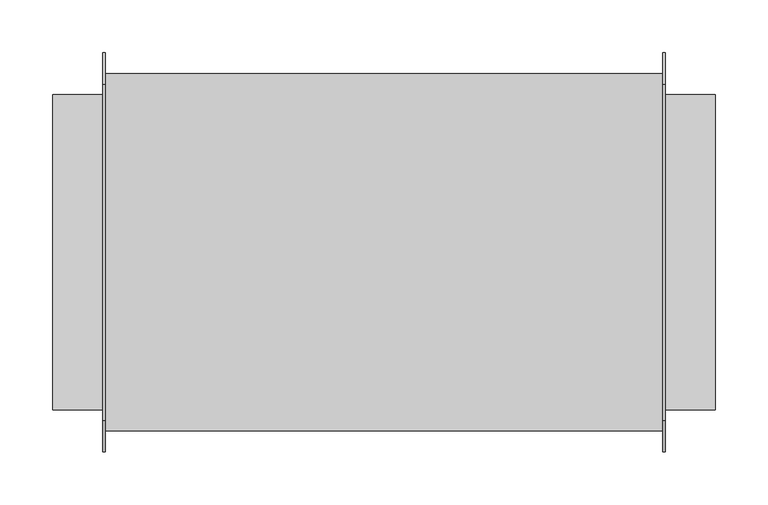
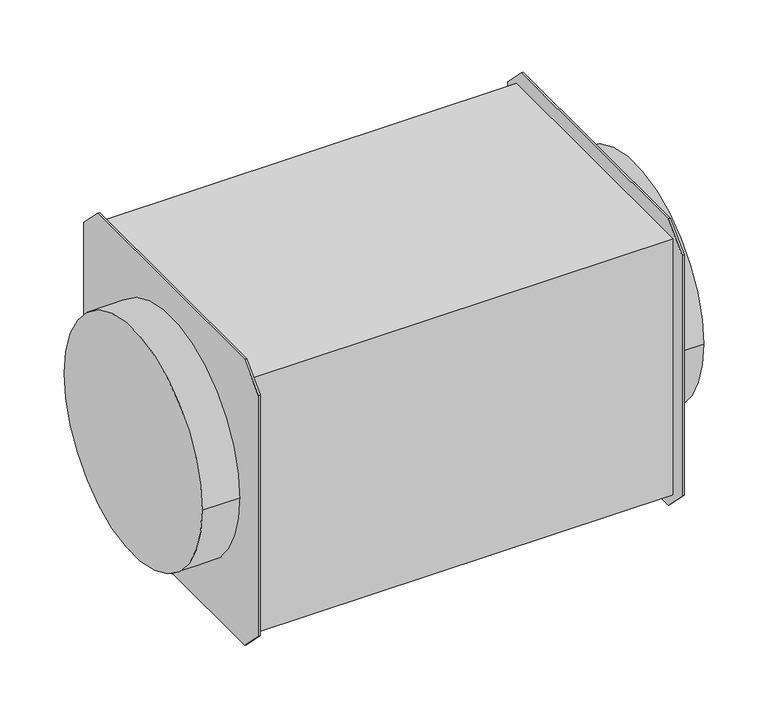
"""IFC4 building model written with IfcOpenShell, lengths in millimetres: unitary equipment geometry, 140_VAV_変風量ユニット_丸ダクト用 : 変風量ユニット_丸ダクト用."""

from ifc_helpers import new_model, si_unit, point, frame, origin, origin_2d, place, context, project, spatial, polyline, circle_curve, trimmed, segment, composite_curve, outline, extrude, source, transform, mapped, element, save


def unitary_equipment_ed3bade5(model_context):
    return source(origin(), model_context, "Body", "SweptSolid", [
        extrude(outline(polyline([(-160.0, -190.0), (-190.0, -160.0), (-190.0, 160.0), (-160.0, 190.0), (160.0, 190.0), (190.0, 160.0), (190.0, -160.0), (160.0, -190.0), (-160.0, -190.0)])), frame((265.0, 0.0, 0.0), z_axis=(1.0, 0.0, 0.0), x_axis=(0.0, 1.0, 0.0)), (0.0, 0.0, 1.0), 2.5),
        extrude(outline(polyline([(-160.0, -190.0), (-190.0, -160.0), (-190.0, 160.0), (-160.0, 190.0), (160.0, 190.0), (190.0, 160.0), (190.0, -160.0), (160.0, -190.0), (-160.0, -190.0)])), frame((-267.5, 0.0, 0.0), z_axis=(1.0, 0.0, 0.0), x_axis=(0.0, 1.0, 0.0)), (0.0, 0.0, 1.0), 2.5),
        extrude(outline(composite_curve([segment(trimmed(circle_curve(origin_2d(), 150.0), [point((-150.0, 0.0))], [point((150.0, 0.0))], False, "CARTESIAN"), True, "CONTINUOUS"), segment(trimmed(circle_curve(origin_2d(), 150.0), [point((150.0, 0.0))], [point((-150.0, 0.0))], False, "CARTESIAN"), True, "CONTINUOUS")], self_intersect=False)), frame((265.0, 0.0, 0.0), z_axis=(1.0, 0.0, 0.0), x_axis=(0.0, 1.0, 0.0)), (0.0, 0.0, 1.0), 50.0),
        extrude(outline(composite_curve([segment(trimmed(circle_curve(origin_2d(), 150.0), [point((-150.0, 0.0))], [point((150.0, 0.0))], False, "CARTESIAN"), True, "CONTINUOUS"), segment(trimmed(circle_curve(origin_2d(), 150.0), [point((150.0, 0.0))], [point((-150.0, 0.0))], False, "CARTESIAN"), True, "CONTINUOUS")], self_intersect=False)), frame((-315.0, 0.0, 0.0), z_axis=(1.0, 0.0, 0.0), x_axis=(0.0, 1.0, 0.0)), (0.0, 0.0, 1.0), 50.0),
        extrude(outline(polyline([(265.0, 170.0), (265.0, -170.0), (-265.0, -170.0), (-265.0, 170.0), (265.0, 170.0)])), frame((0.0, 0.0, -170.0), z_axis=(0.0, 0.0, 1.0), x_axis=(1.0, 0.0, 0.0)), (0.0, 0.0, 1.0), 340.0),
    ])


if __name__ == "__main__":
    model = new_model("IFC4")
    model_context = context("Model", 3, world=origin())
    ifc_project = project(units=[si_unit("LENGTHUNIT", "METRE", prefix="MILLI")], contexts=[model_context])
    site = spatial("IfcSite", under=ifc_project)
    building = spatial("IfcBuilding", under=site)
    placement = place(None, origin())
    unitary_equipment_shape = unitary_equipment_ed3bade5(model_context)
    element("IfcUnitaryEquipment", 1, ObjectType="140_VAV_変風量ユニット_丸ダクト用 : 変風量ユニット_丸ダクト用", at=placement, inside=building, context=model_context, shape_type="MappedRepresentation", body=[
        mapped(unitary_equipment_shape, transform((0.0, 0.0, 0.0), x_axis=(1.0, 0.0, 0.0), y_axis=(0.0, 1.0, 0.0), z_axis=(0.0, 0.0, 1.0))),
    ])
    save(model, "model.ifc")
